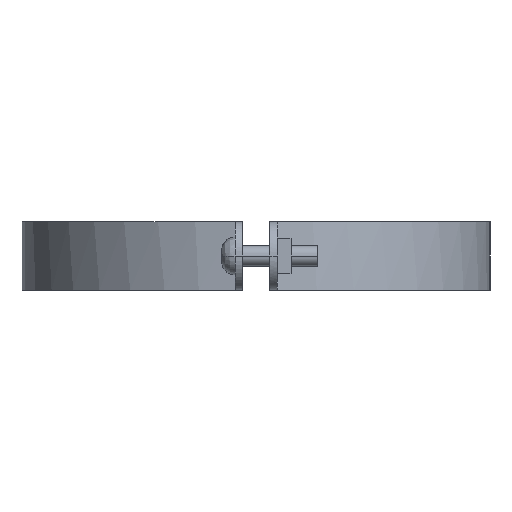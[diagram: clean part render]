
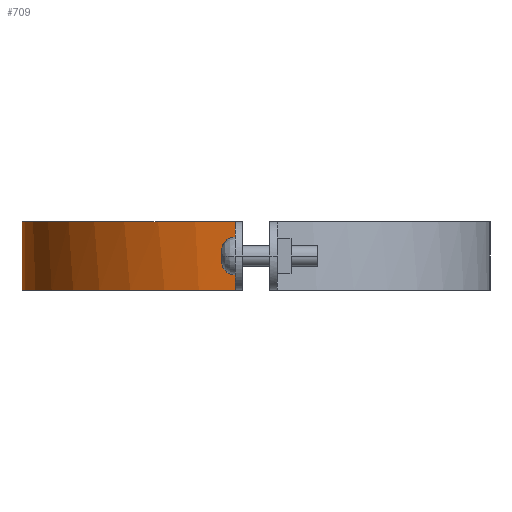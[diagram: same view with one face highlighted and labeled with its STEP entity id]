
A CAD part, left-side view. The second image highlights one B-rep face of the part: STEP entity #709.
In plain terms, the highlighted free-form (B-spline) face has degree [3, 1] with [4, 2] control points.
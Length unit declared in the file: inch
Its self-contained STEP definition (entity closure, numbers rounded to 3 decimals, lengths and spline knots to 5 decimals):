
#439=EDGE_CURVE('',#1091,#1092,#1093,.T.);
#569=EDGE_CURVE('',#1092,#1285,#1286,.T.);
#593=EDGE_CURVE('',#1213,#1091,#1315,.T.);
#709=ADVANCED_FACE('',(#1460),#1461,.T.);
#827=EDGE_CURVE('',#1213,#1285,#1597,.T.);
#1091=VERTEX_POINT('',#2046);
#1092=VERTEX_POINT('',#2047);
#1093=LINE('',#2048,#2049);
#1213=VERTEX_POINT('',#2276);
#1285=VERTEX_POINT('',#2513);
#1286=B_SPLINE_CURVE_WITH_KNOTS('',3,(#2514,#2515,#2516,#2517),.UNSPECIFIED.,.F.,.F.,(4,4),(0.0,1.0),.UNSPECIFIED.);
#1315=B_SPLINE_CURVE_WITH_KNOTS('',3,(#2636,#2637,#2638,#2639),.UNSPECIFIED.,.F.,.F.,(4,4),(-1.0,-0.0),.UNSPECIFIED.);
#1460=FACE_OUTER_BOUND('',#2932,.T.);
#1461=B_SPLINE_SURFACE_WITH_KNOTS('',3,1,((#2933,#2934),(#2935,#2936),(#2937,#2938),(#2939,#2940)),.UNSPECIFIED.,.F.,.F.,.F.,(4,4),(2,2),(-1.0,-0.0),(0.0,1.25),.UNSPECIFIED.);
#1597=LINE('',#3324,#3325);
#2046=CARTESIAN_POINT('',(0.69451,4.65257,0.00011));
#2047=CARTESIAN_POINT('',(0.69451,4.65257,1.24992));
#2048=CARTESIAN_POINT('',(0.69451,4.65257,0.0));
#2049=VECTOR('',#3594,1.0);
#2276=CARTESIAN_POINT('',(4.93642,8.53622,0.00011));
#2513=CARTESIAN_POINT('',(4.93642,8.53622,1.24992));
#2514=CARTESIAN_POINT('',(0.69451,4.65257,1.24992));
#2515=CARTESIAN_POINT('',(0.89362,6.84674,1.24992));
#2516=CARTESIAN_POINT('',(2.7332,8.53622,1.24992));
#2517=CARTESIAN_POINT('',(4.93642,8.53622,1.24992));
#2636=CARTESIAN_POINT('',(4.93642,8.53622,0.00011));
#2637=CARTESIAN_POINT('',(2.7332,8.53622,0.00011));
#2638=CARTESIAN_POINT('',(0.89362,6.84674,0.00011));
#2639=CARTESIAN_POINT('',(0.69451,4.65257,0.00011));
#2932=EDGE_LOOP('',(#3974,#3975,#3976,#3977));
#2933=CARTESIAN_POINT('',(4.93642,8.53622,0.0));
#2934=CARTESIAN_POINT('',(4.93642,8.53622,1.25));
#2935=CARTESIAN_POINT('',(2.7332,8.53622,0.0));
#2936=CARTESIAN_POINT('',(2.7332,8.53622,1.25));
#2937=CARTESIAN_POINT('',(0.89362,6.84674,0.0));
#2938=CARTESIAN_POINT('',(0.89362,6.84674,1.25));
#2939=CARTESIAN_POINT('',(0.69451,4.65257,0.0));
#2940=CARTESIAN_POINT('',(0.69451,4.65257,1.25));
#3324=CARTESIAN_POINT('',(4.93642,8.53622,0.0));
#3325=VECTOR('',#4130,1.0);
#3594=DIRECTION('',(0.0,0.0,1.0));
#3974=ORIENTED_EDGE('',*,*,#593,.T.);
#3975=ORIENTED_EDGE('',*,*,#439,.T.);
#3976=ORIENTED_EDGE('',*,*,#569,.T.);
#3977=ORIENTED_EDGE('',*,*,#827,.F.);
#4130=DIRECTION('',(0.0,0.0,1.0));
